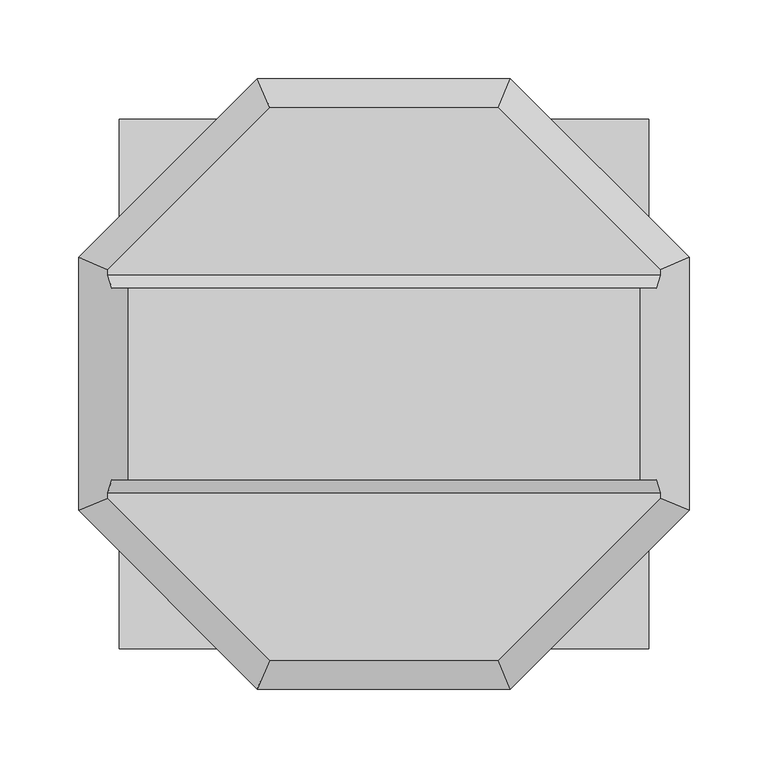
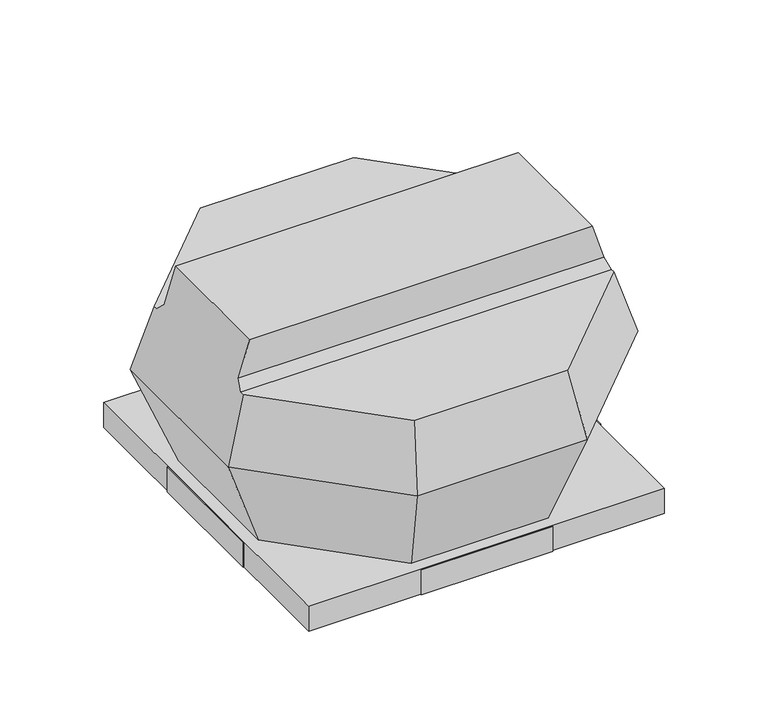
"""IFC4 building model written with IfcOpenShell, lengths in millimetres: unitary equipment geometry, VE-Wentylator-ParaForma-Harmann-VIVER_PT-Wywiewny : 2-190/600PT."""

import ifcopenshell
import ifcopenshell.guid

model = None  # the IFC model being written
_history = None  # IfcOwnerHistory: only IFC2X3 demands one
_inside = {}  # id of a spatial element -> (the spatial element, [elements in it])
_under = {}  # id of a project, library or spatial element -> (it, [spatial elements below it])
_declared = {}  # id of a project -> (the project, [libraries it declares])
_typed = {}  # id of a type object -> (the type object, [elements of that type])
_made_of = {}  # id of a material, layer set ... -> (it, [elements and type objects made of it])


def new_model(schema):
    """Start an empty IFC model of exactly this schema.

    Asked for "IFC4X3", IfcOpenShell would pick the latest addendum, in which some entities
    have other attributes; the version numbers below select the first issue.
    IFC2X3 requires an IfcOwnerHistory on every rooted entity: one is made here for all.
    """
    global model, _history
    if schema == "IFC4X3":
        model = ifcopenshell.file(schema_version=(4, 3, 0, 0))
    else:
        model = ifcopenshell.file(schema=schema)
    _inside.clear()
    _under.clear()
    _declared.clear()
    _typed.clear()
    _made_of.clear()
    _history = None
    if model.schema == "IFC2X3":
        org = make("IfcOrganization", Name="unknown")
        user = make(
            "IfcPersonAndOrganization",
            ThePerson=make("IfcPerson", FamilyName="unknown"),
            TheOrganization=org,
        )
        app = make(
            "IfcApplication",
            ApplicationDeveloper=org,
            Version="unknown",
            ApplicationFullName="unknown",
            ApplicationIdentifier="unknown",
        )
        _history = make(
            "IfcOwnerHistory",
            OwningUser=user,
            OwningApplication=app,
            ChangeAction="ADDED",
            CreationDate=0,
        )
    return model


def make(cls, **values):
    """One entity of the class cls with the attributes given. An attribute that is None is left unset."""
    return model.create_entity(
        cls, **{name: value for name, value in values.items() if value is not None}
    )


def rooted(cls, **values):
    """An entity with a GlobalId (a new one), such as an element, a storey or a relation."""
    return make(cls, GlobalId=ifcopenshell.guid.new(), OwnerHistory=_history, **values)


def si_unit(unit_type, name, prefix=None):
    """IfcSIUnit, for example si_unit("LENGTHUNIT", "METRE", prefix="MILLI")."""
    return make("IfcSIUnit", UnitType=unit_type, Prefix=prefix, Name=name)


def assignment(units):
    """IfcUnitAssignment: the units of a project."""
    return None if units is None else make("IfcUnitAssignment", Units=units)


def point(xyz):
    """IfcCartesianPoint."""
    return None if xyz is None else make("IfcCartesianPoint", Coordinates=xyz)


def direction(xyz):
    """IfcDirection."""
    return None if xyz is None else make("IfcDirection", DirectionRatios=xyz)


def frame(location, z_axis=None, x_axis=None):
    """IfcAxis2Placement3D, a coordinate frame: its origin and axes. An axis left out is left unset."""
    return make(
        "IfcAxis2Placement3D",
        Location=point(location),
        Axis=direction(z_axis),
        RefDirection=direction(x_axis),
    )


def origin():
    """The frame at (0, 0, 0) with its axes left unset."""
    return frame((0.0, 0.0, 0.0))


def place(relative_to, where):
    """IfcLocalPlacement: puts the frame where relative to a parent placement (None: the world)."""
    return make(
        "IfcLocalPlacement", PlacementRelTo=relative_to, RelativePlacement=where
    )


def context(
    kind, dimensions, precision=None, world=None, true_north=None, identifier=None
):
    """IfcGeometricRepresentationContext, for example the 3D "Model" context."""
    return make(
        "IfcGeometricRepresentationContext",
        ContextIdentifier=identifier,
        ContextType=kind,
        CoordinateSpaceDimension=dimensions,
        Precision=precision,
        WorldCoordinateSystem=world,
        TrueNorth=true_north,
    )


def project(units=None, contexts=None):
    """IfcProject with its units and contexts."""
    return rooted(
        "IfcProject",
        Name="project",
        RepresentationContexts=contexts,
        UnitsInContext=assignment(units),
    )


def spatial(cls, under=None, at=None, **own):
    """A site, building, storey or space (cls), placed at a placement, below another one or the project."""
    s = rooted(cls, ObjectPlacement=at, **own)
    if under is not None:
        _under.setdefault(under.id(), (under, []))[1].append(s)
    return s


def faces_of(points, faces, orient=None, outer=None):
    """IfcFace entities. A face is a list of loops; a loop is a list of indices into points, from 0.

    orient and outer hold one flag for each loop. By default every Orientation is true, the
    first loop of a face is its IfcFaceOuterBound and the others are IfcFaceBound.
    """
    made = []
    for i, loops in enumerate(faces):
        bounds = []
        for j, loop in enumerate(loops):
            is_outer = j == 0 if outer is None else outer[i][j]
            bounds.append(
                make(
                    "IfcFaceOuterBound" if is_outer else "IfcFaceBound",
                    Bound=make("IfcPolyLoop", Polygon=[points[k] for k in loop]),
                    Orientation=True if orient is None else orient[i][j],
                )
            )
        made.append(make("IfcFace", Bounds=bounds))
    return made


def faceted_brep(points, faces, orient=None, outer=None, voids=None):
    """IfcFacetedBrep: a solid bounded by flat faces; with voids (closed shells), ...WithVoids."""
    shared = [point(p) for p in points]
    hull = make("IfcClosedShell", CfsFaces=faces_of(shared, faces, orient, outer))
    if voids is None:
        return make("IfcFacetedBrep", Outer=hull)
    return make(
        "IfcFacetedBrepWithVoids",
        Outer=hull,
        Voids=[
            make(cls, CfsFaces=faces_of(shared, fs, o, b)) for cls, fs, o, b in voids
        ],
    )


def shape(context_of_items, identifier, shape_type, items):
    """IfcShapeRepresentation: the items that make up one representation, for example the "Body"."""
    return make(
        "IfcShapeRepresentation",
        ContextOfItems=context_of_items,
        RepresentationIdentifier=identifier,
        RepresentationType=shape_type,
        Items=items,
    )


def source(mapping_origin, context_of_items, identifier, shape_type, items):
    """IfcRepresentationMap: a shape defined once, which mapped items show again and again."""
    return make(
        "IfcRepresentationMap",
        MappingOrigin=mapping_origin,
        MappedRepresentation=shape(context_of_items, identifier, shape_type, items),
    )


def transform(
    local_origin,
    x_axis=None,
    y_axis=None,
    z_axis=None,
    scale=None,
    scale2=None,
    scale3=None,
    uniform=True,
):
    """IfcCartesianTransformationOperator3D, or its non-uniform kind. x_axis, y_axis, z_axis: its Axis1, 2, 3."""
    if uniform:
        return make(
            "IfcCartesianTransformationOperator3D",
            Axis1=direction(x_axis),
            Axis2=direction(y_axis),
            LocalOrigin=point(local_origin),
            Scale=scale,
            Axis3=direction(z_axis),
        )
    return make(
        "IfcCartesianTransformationOperator3DnonUniform",
        Axis1=direction(x_axis),
        Axis2=direction(y_axis),
        LocalOrigin=point(local_origin),
        Scale=scale,
        Axis3=direction(z_axis),
        Scale2=scale2,
        Scale3=scale3,
    )


def mapped(mapping_source, mapping_target):
    """IfcMappedItem: shows the shape of a source again, moved by a transform."""
    return make(
        "IfcMappedItem", MappingSource=mapping_source, MappingTarget=mapping_target
    )


def made_of(thing, what):
    """Note that an element or type object is made of a material, layer set ...; save() writes the relation."""
    if what is not None:
        _made_of.setdefault(what.id(), (what, []))[1].append(thing)
    return thing


def element(
    cls,
    number,
    at=None,
    inside=None,
    cuts=None,
    type_object=None,
    material=None,
    context=None,
    identifier="Body",
    shape_type=None,
    held_by="IfcProductDefinitionShape",
    body=None,
    shapes=None,
    **own,
):
    """One element of the class cls, such as IfcWall. Its Tag is "e" and its number.

    at: its placement. inside: the storey or other place that contains it. cuts: it is an
    opening in that element (IfcRelVoidsElement). A single representation is given by context,
    identifier, shape_type and body (its items); several are given by shapes. held_by: the class
    of the entity that holds the representations. save() writes the other relations.
    """
    e = rooted(cls, Tag="e%d" % number, ObjectPlacement=at, **own)
    if body is not None:
        shapes = [shape(context, identifier, shape_type, body)]
    if shapes is not None:
        e.Representation = make(held_by, Representations=shapes)
    if inside is not None:
        _inside.setdefault(inside.id(), (inside, []))[1].append(e)
    if cuts is not None:
        rooted(
            "IfcRelVoidsElement", RelatingBuildingElement=cuts, RelatedOpeningElement=e
        )
    if type_object is not None:
        _typed.setdefault(type_object.id(), (type_object, []))[1].append(e)
    return made_of(e, material)


def aggregate(whole, parts):
    """IfcRelAggregates: a whole, such as a stair, and the parts it consists of."""
    return rooted("IfcRelAggregates", RelatingObject=whole, RelatedObjects=parts)


def save(model, path):
    """Write the relations noted so far, then the file.

    IfcRelAggregates (storeys below a building ...), IfcRelContainedInSpatialStructure (elements
    in a storey), IfcRelDefinesByType, IfcRelAssociatesMaterial and IfcRelDeclares: one each for
    every whole, place, type object, material and project.
    """
    for whole, parts in _under.values():
        aggregate(whole, parts)
    for where, things in _inside.values():
        rooted(
            "IfcRelContainedInSpatialStructure",
            RelatedElements=things,
            RelatingStructure=where,
        )
    for kind, things in _typed.values():
        rooted("IfcRelDefinesByType", RelatedObjects=things, RelatingType=kind)
    for what, things in _made_of.values():
        rooted("IfcRelAssociatesMaterial", RelatedObjects=things, RelatingMaterial=what)
    for by, libraries in _declared.values():
        rooted("IfcRelDeclares", RelatingContext=by, RelatedDefinitions=libraries)
    model.write(path)


def unitary_equipment_e1577b00(model_context):
    return source(origin(), model_context, "Body", "Brep", [
        faceted_brep([(162.6755291, -60.8, 201.3), (162.6755291, 60.8, 201.3), (-162.6755291, 60.8, 201.3), (-162.6755291, -60.8, 201.3), (173.241842, 60.8, 166.4), (-173.241842, 60.8, 166.4), (-173.241842, -60.8, 166.4), (173.241842, -60.8, 166.4), (175.7547473, 69.15, 158.1), (-175.7547473, 69.15, 158.1), (175.7547473, -69.15, 158.1), (-175.7547473, -69.15, 158.1), (72.8, -175.7547473, 158.1), (175.7547473, -72.8, 158.1), (-175.7547473, -72.8, 158.1), (-72.8, -175.7547473, 158.1), (175.7547473, 72.8, 158.1), (72.8, 175.7547473, 158.1), (-72.8, 175.7547473, 158.1), (-175.7547473, 72.8, 158.1), (80.5, -194.3441918, 96.7), (194.3441918, -80.5, 96.7), (194.3441918, 80.5, 96.7), (80.5, 194.3441918, 96.7), (-80.5, 194.3441918, 96.7), (-194.3441918, 80.5, 96.7), (-194.3441918, -80.5, 96.7), (-80.5, -194.3441918, 96.7), (65.05, -157.0445922, 1.0), (-65.05, -157.0445922, 1.0), (-157.0445922, -65.05, 1.0), (-157.0445922, 65.05, 1.0), (-65.05, 157.0445922, 1.0), (65.05, 157.0445922, 1.0), (157.0445922, 65.05, 1.0), (157.0445922, -65.05, 1.0)], [[[0, 1, 2, 3]], [[2, 1, 4, 5]], [[0, 3, 6, 7]], [[4, 8, 9, 5]], [[10, 7, 6, 11]], [[12, 13, 10, 11, 14, 15]], [[16, 17, 18, 19, 9, 8]], [[13, 12, 20, 21]], [[13, 21, 22, 16, 8, 4, 1, 0, 7, 10]], [[17, 16, 22, 23]], [[18, 17, 23, 24]], [[19, 18, 24, 25]], [[19, 25, 26, 14, 11, 6, 3, 2, 5, 9]], [[15, 14, 26, 27]], [[12, 15, 27, 20]], [[28, 29, 30, 31, 32, 33, 34, 35]], [[28, 35, 21, 20]], [[35, 34, 22, 21]], [[34, 33, 23, 22]], [[33, 32, 24, 23]], [[32, 31, 25, 24]], [[31, 30, 26, 25]], [[30, 29, 27, 26]], [[29, 28, 20, 27]]]),
        faceted_brep([(167.5, 167.5, -24.0), (167.5, 167.5, 0.0), (-167.5, 167.5, 0.0), (-167.5, 167.5, -24.0), (168.5, 168.5, 1.0), (168.5, 168.5, -24.0), (-168.5, 168.5, -24.0), (-168.5, 168.5, 1.0), (-167.5, -167.5, 0.0), (-167.5, -167.5, -24.0), (-168.5, -168.5, -24.0), (-168.5, -168.5, 1.0), (167.5, -167.5, 0.0), (167.5, -167.5, -24.0), (168.5, -168.5, -24.0), (168.5, -168.5, 1.0)], [[[0, 1, 2, 3]], [[4, 5, 6, 7]], [[3, 2, 8, 9]], [[7, 6, 10, 11]], [[9, 8, 12, 13]], [[11, 10, 14, 15]], [[13, 12, 1, 0]], [[5, 14, 10, 6], [3, 9, 13, 0]], [[15, 14, 5, 4]], [[7, 11, 15, 4]], [[1, 12, 8, 2]]]),
        faceted_brep([(-168.5, -62.3, -24.0), (-169.5, -62.3, -24.0), (-169.5, 62.3, -24.0), (-168.5, 62.3, -24.0), (-168.5, -62.3, 1.0), (-168.5, 62.3, 1.0), (-169.5, 62.3, 1.0), (-169.5, -62.3, 1.0)], [[[0, 1, 2, 3]], [[4, 5, 6, 7]], [[1, 0, 4, 7]], [[2, 1, 7, 6]], [[3, 2, 6, 5]], [[0, 3, 5, 4]]]),
        faceted_brep([(169.5, -62.3, -24.0), (168.5, -62.3, -24.0), (168.5, 62.3, -24.0), (169.5, 62.3, -24.0), (169.5, 62.3, 1.0), (168.5, 62.3, 1.0), (168.5, 5.0, 1.0), (168.5, -5.0, 1.0), (168.5, -62.3, 1.0), (169.5, -62.3, 1.0), (169.5, -5.0, 1.0), (169.5, 5.0, 1.0)], [[[0, 1, 2, 3]], [[4, 5, 6, 7, 8, 9, 10, 11]], [[1, 0, 9, 8]], [[2, 1, 8, 7, 6, 5]], [[3, 2, 5, 4]], [[0, 3, 4, 11, 10, 9]]]),
        faceted_brep([(62.3, 168.5, -24.0), (-62.3, 168.5, -24.0), (-62.3, 169.5, -24.0), (62.3, 169.5, -24.0), (62.3, 168.5, 1.0), (62.3, 169.5, 1.0), (-62.3, 169.5, 1.0), (-62.3, 168.5, 1.0)], [[[0, 1, 2, 3]], [[4, 5, 6, 7]], [[1, 0, 4, 7]], [[2, 1, 7, 6]], [[3, 2, 6, 5]], [[0, 3, 5, 4]]]),
        faceted_brep([(62.3, -169.5, -24.0), (-62.3, -169.5, -24.0), (-62.3, -168.5, -24.0), (62.3, -168.5, -24.0), (62.3, -169.5, 1.0), (62.3, -168.5, 1.0), (-62.3, -168.5, 1.0), (-62.3, -169.5, 1.0)], [[[0, 1, 2, 3]], [[4, 5, 6, 7]], [[1, 0, 4, 7]], [[2, 1, 7, 6]], [[3, 2, 6, 5]], [[0, 3, 5, 4]]]),
    ])


if __name__ == "__main__":
    model = new_model("IFC4")
    model_context = context("Model", 3, world=origin())
    ifc_project = project(units=[si_unit("LENGTHUNIT", "METRE", prefix="MILLI")], contexts=[model_context])
    site = spatial("IfcSite", under=ifc_project)
    building = spatial("IfcBuilding", under=site)
    placement = place(None, origin())
    unitary_equipment_shape = unitary_equipment_e1577b00(model_context)
    element("IfcUnitaryEquipment", 1, ObjectType="VE-Wentylator-ParaForma-Harmann-VIVER_PT-Wywiewny : 2-190/600PT", at=placement, inside=building, context=model_context, shape_type="MappedRepresentation", body=[
        mapped(unitary_equipment_shape, transform((0.0, 0.0, 0.0), x_axis=(1.0, 0.0, 0.0), y_axis=(0.0, 1.0, 0.0), z_axis=(0.0, 0.0, 1.0))),
    ])
    save(model, "model.ifc")
